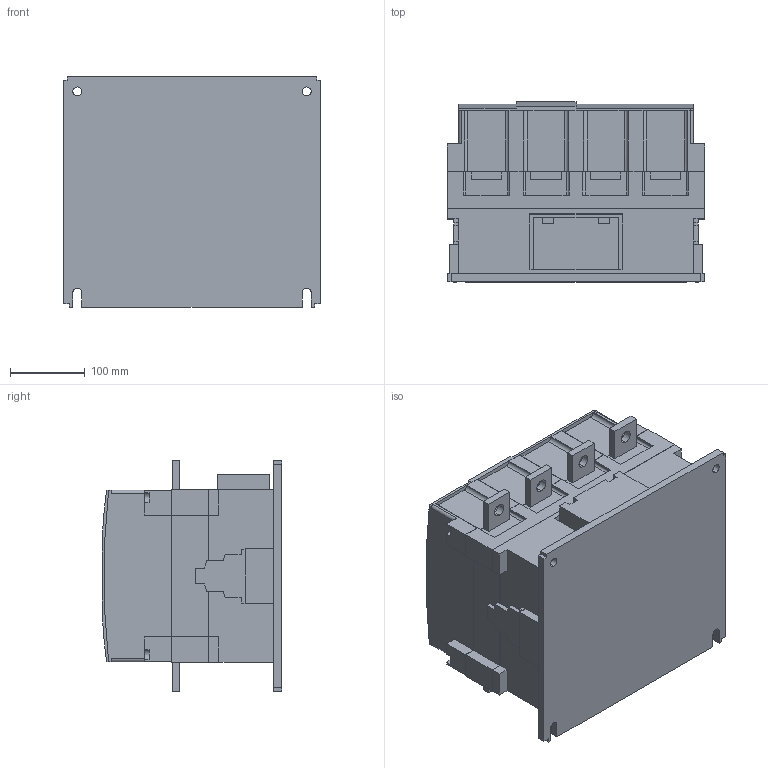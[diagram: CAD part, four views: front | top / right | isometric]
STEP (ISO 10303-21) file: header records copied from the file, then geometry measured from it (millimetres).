
FILE_DESCRIPTION (( 'STEP AP203' ), '1' );
FILE_NAME ('CWM500...800_4P.STEP', '2021-04-15T11:00:55', ( 'Usuário do Windows' ), ( 'WEG Equipamentos Elétricos' ), 'SwSTEP 2.0', 'SolidWorks 2018', '' );
FILE_SCHEMA (( 'CONFIG_CONTROL_DESIGN' ));
Length unit declared in the file: millimetre
Products named in the file (2): CWM500...800_4P
Bounding box: 346 x 241.3 x 310 mm (x, y, z)
Volume: 17773952.9 mm3; surface area: 641720.3 mm2
Topology: 1 solids, 1 shells, 387 faces, 1062 edges, 689 vertices
Faces by surface type: plane 318, cylinder 67, bspline 2
Entity records: 12310 total; most frequent: CARTESIAN_POINT 2179, ORIENTED_EDGE 2124, DIRECTION 1985, EDGE_CURVE 1062, VECTOR 899, LINE 899, VERTEX_POINT 689, AXIS2_PLACEMENT_3D 543
